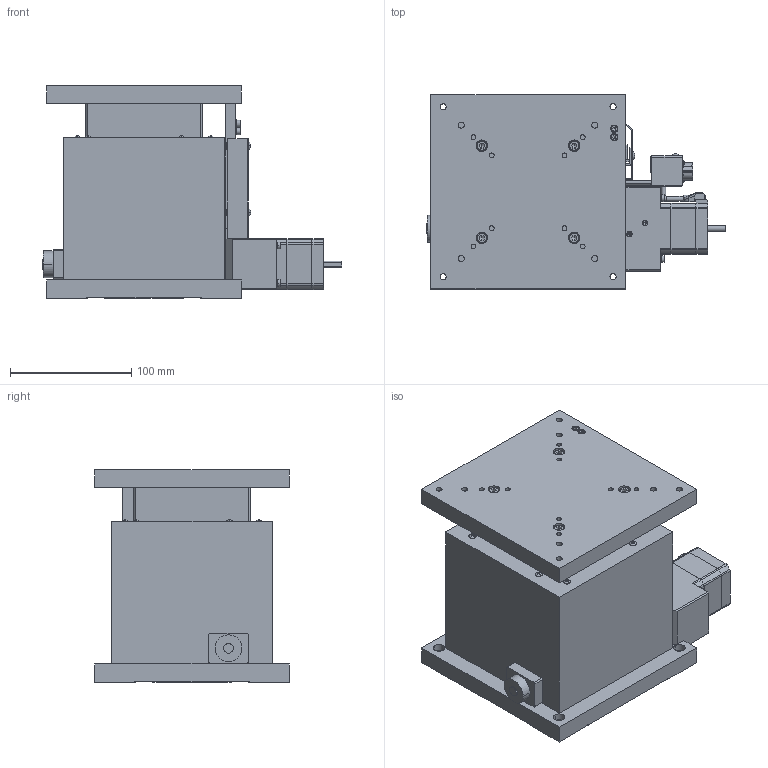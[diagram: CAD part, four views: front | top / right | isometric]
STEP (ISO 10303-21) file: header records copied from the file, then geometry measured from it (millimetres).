
FILE_DESCRIPTION (( 'STEP AP203' ), '1' );
FILE_NAME ('ZA16A-32F01.STEP', '2019-02-21T00:41:50', ( '' ), ( '' ), 'SwSTEP 2.0', 'SolidWorks 2018', '' );
FILE_SCHEMA (( 'CONFIG_CONTROL_DESIGN' ));
Products named in the file (3): ZA16A-32F01; table; base
Assembly tree (2 placements, depth 2):
  ZA16A-32F01
    table
    base
Bounding box: 247 x 160 x 175 mm (x, y, z)
Volume: 2271293 mm3; surface area: 332574.4 mm2
Topology: 2 solids, 4 shells, 2151 faces, 5170 edges, 3120 vertices
Faces by surface type: plane 1269, cylinder 522, cone 304, sphere 32, torus 20, bspline 4
Entity records: 62404 total; most frequent: CARTESIAN_POINT 11392, DIRECTION 11121, ORIENTED_EDGE 10136, EDGE_CURVE 5068, AXIS2_PLACEMENT_3D 4019, VERTEX_POINT 3120, VECTOR 3083, LINE 3083
